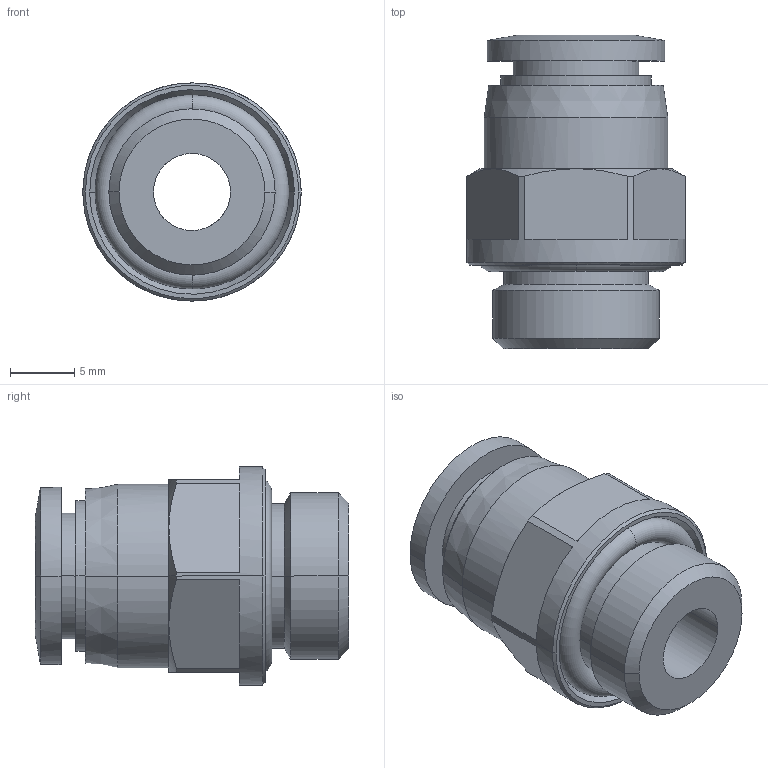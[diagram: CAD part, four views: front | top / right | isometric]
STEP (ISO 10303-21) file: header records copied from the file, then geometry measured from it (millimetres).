
FILE_DESCRIPTION (( 'STEP AP203' ), '1' );
FILE_NAME ('FH08-02.STEP', '2020-04-28T13:39:29', ( '' ), ( '' ), 'SwSTEP 2.0', 'SolidWorks 2019', '' );
FILE_SCHEMA (( 'CONFIG_CONTROL_DESIGN' ));
Length unit declared in the file: millimetre
Products named in the file (1): FH08-02
Bounding box: 17 x 24.4 x 17 mm (x, y, z)
Surface area: 2539.3 mm2 (no closed solid volume)
Topology: 0 solids, 4 shells, 67 faces, 156 edges, 99 vertices
Faces by surface type: plane 22, cylinder 20, cone 19, torus 6
Entity records: 3240 total; most frequent: CARTESIAN_POINT 1873, ORIENTED_EDGE 296, DIRECTION 181, EDGE_CURVE 156, B_SPLINE_CURVE_WITH_KNOTS 117, VERTEX_POINT 99, EDGE_LOOP 77, AXIS2_PLACEMENT_3D 74
